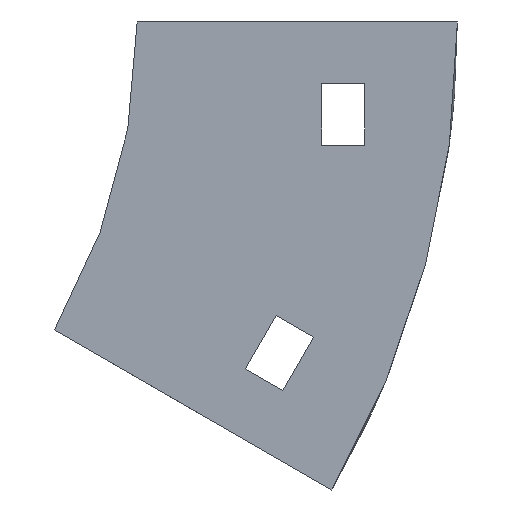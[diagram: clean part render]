
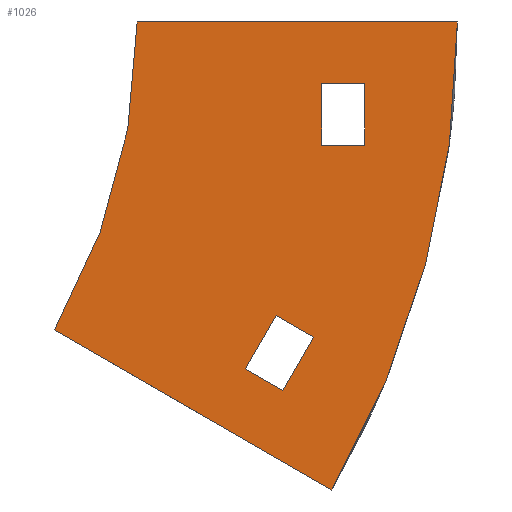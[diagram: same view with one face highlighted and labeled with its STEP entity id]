
A CAD part, left-side view. The second image highlights one B-rep face of the part: STEP entity #1026.
In plain terms, the highlighted planar face has unit normal (-1, 0, 0).
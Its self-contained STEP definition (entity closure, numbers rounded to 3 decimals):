
#2 = VERTEX_POINT ( 'NONE', #1080 ) ;
#5 = DIRECTION ( 'NONE',  ( 0., 1., 0. ) ) ;
#6 = EDGE_CURVE ( 'NONE', #1120, #881, #559, .T. ) ;
#23 = FACE_OUTER_BOUND ( 'NONE', #189, .T. ) ;
#24 = EDGE_CURVE ( 'NONE', #720, #60, #447, .T. ) ;
#29 = VECTOR ( 'NONE', #805, 1000. ) ;
#38 = CARTESIAN_POINT ( 'NONE',  ( -102., 0., 0. ) ) ;
#60 = VERTEX_POINT ( 'NONE', #263 ) ;
#79 = CARTESIAN_POINT ( 'NONE',  ( -102., -30., -10. ) ) ;
#106 = DIRECTION ( 'NONE',  ( 0., 0., -1. ) ) ;
#111 = CARTESIAN_POINT ( 'NONE',  ( -102., 13.397, -50. ) ) ;
#126 = CARTESIAN_POINT ( 'NONE',  ( -102., -17.583, -56.34 ) ) ;
#130 = DIRECTION ( 'NONE',  ( 0., -0.866, -0.5 ) ) ;
#144 = VERTEX_POINT ( 'NONE', #111 ) ;
#153 = VECTOR ( 'NONE', #717, 1000. ) ;
#173 = DIRECTION ( 'NONE',  ( 0., 0., -1. ) ) ;
#184 = ORIENTED_EDGE ( 'NONE', *, *, #262, .F. ) ;
#189 = EDGE_LOOP ( 'NONE', ( #370, #781, #838, #258 ) ) ;
#191 = CARTESIAN_POINT ( 'NONE',  ( -102., 100., 0. ) ) ;
#198 = AXIS2_PLACEMENT_3D ( 'NONE', #632, #1062, #173 ) ;
#223 = CARTESIAN_POINT ( 'NONE',  ( -102., -30., -10. ) ) ;
#235 = VERTEX_POINT ( 'NONE', #1073 ) ;
#258 = ORIENTED_EDGE ( 'NONE', *, *, #342, .F. ) ;
#262 = EDGE_CURVE ( 'NONE', #916, #235, #420, .T. ) ;
#263 = CARTESIAN_POINT ( 'NONE',  ( -102., -37., -10. ) ) ;
#271 = DIRECTION ( 'NONE',  ( 0., 0., -1. ) ) ;
#279 = ORIENTED_EDGE ( 'NONE', *, *, #659, .T. ) ;
#285 = CARTESIAN_POINT ( 'NONE',  ( -102., -30., -20. ) ) ;
#301 = DIRECTION ( 'NONE',  ( 0., 0., -1. ) ) ;
#307 = LINE ( 'NONE', #753, #554 ) ;
#328 = ORIENTED_EDGE ( 'NONE', *, *, #492, .F. ) ;
#336 = CARTESIAN_POINT ( 'NONE',  ( -102., 13.397, -50. ) ) ;
#342 = EDGE_CURVE ( 'NONE', #972, #1120, #893, .T. ) ;
#353 = EDGE_CURVE ( 'NONE', #689, #1015, #476, .T. ) ;
#367 = CARTESIAN_POINT ( 'NONE',  ( -102., -52., 0. ) ) ;
#369 = ORIENTED_EDGE ( 'NONE', *, *, #1112, .F. ) ;
#370 = ORIENTED_EDGE ( 'NONE', *, *, #545, .F. ) ;
#385 = VECTOR ( 'NONE', #301, 1000. ) ;
#394 = DIRECTION ( 'NONE',  ( 0., 0.866, 0.5 ) ) ;
#398 = CARTESIAN_POINT ( 'NONE',  ( -102., -30., -20. ) ) ;
#418 = EDGE_CURVE ( 'NONE', #881, #144, #769, .T. ) ;
#420 = LINE ( 'NONE', #427, #487 ) ;
#423 = CARTESIAN_POINT ( 'NONE',  ( -102., -52., 0. ) ) ;
#427 = CARTESIAN_POINT ( 'NONE',  ( -102., -23.645, -59.84 ) ) ;
#431 = ORIENTED_EDGE ( 'NONE', *, *, #661, .F. ) ;
#434 = DIRECTION ( 'NONE',  ( 0., -1., 0. ) ) ;
#446 = CARTESIAN_POINT ( 'NONE',  ( -102., -23.645, -59.84 ) ) ;
#447 = LINE ( 'NONE', #877, #724 ) ;
#476 = LINE ( 'NONE', #285, #857 ) ;
#487 = VECTOR ( 'NONE', #792, 1000. ) ;
#488 = DIRECTION ( 'NONE',  ( 0., 0., 1. ) ) ;
#492 = EDGE_CURVE ( 'NONE', #235, #882, #1048, .T. ) ;
#494 = EDGE_CURVE ( 'NONE', #60, #689, #749, .T. ) ;
#509 = ORIENTED_EDGE ( 'NONE', *, *, #353, .T. ) ;
#545 = EDGE_CURVE ( 'NONE', #144, #972, #719, .T. ) ;
#554 = VECTOR ( 'NONE', #941, 1000. ) ;
#555 = VECTOR ( 'NONE', #488, 1000. ) ;
#559 = CIRCLE ( 'NONE', #198, 152. ) ;
#597 = LINE ( 'NONE', #223, #555 ) ;
#632 = CARTESIAN_POINT ( 'NONE',  ( -102., 100., 0. ) ) ;
#654 = PLANE ( 'NONE',  #1124 ) ;
#659 = EDGE_CURVE ( 'NONE', #1015, #720, #597, .T. ) ;
#661 = EDGE_CURVE ( 'NONE', #2, #916, #918, .T. ) ;
#689 = VERTEX_POINT ( 'NONE', #752 ) ;
#701 = VECTOR ( 'NONE', #394, 1000. ) ;
#716 = DIRECTION ( 'NONE',  ( -1., 0., 0. ) ) ;
#717 = DIRECTION ( 'NONE',  ( 0., 0.866, 0.5 ) ) ;
#719 = CIRCLE ( 'NONE', #959, 100. ) ;
#720 = VERTEX_POINT ( 'NONE', #79 ) ;
#724 = VECTOR ( 'NONE', #434, 1000. ) ;
#733 = FACE_BOUND ( 'NONE', #1032, .T. ) ;
#744 = FACE_BOUND ( 'NONE', #1014, .T. ) ;
#749 = LINE ( 'NONE', #1104, #385 ) ;
#752 = CARTESIAN_POINT ( 'NONE',  ( -102., -37., -20. ) ) ;
#753 = CARTESIAN_POINT ( 'NONE',  ( -102., -17.583, -56.34 ) ) ;
#769 = LINE ( 'NONE', #336, #153 ) ;
#774 = CARTESIAN_POINT ( 'NONE',  ( -102., -31.636, -76. ) ) ;
#781 = ORIENTED_EDGE ( 'NONE', *, *, #418, .F. ) ;
#792 = DIRECTION ( 'NONE',  ( 0., -0.5, 0.866 ) ) ;
#805 = DIRECTION ( 'NONE',  ( 0., -1., 0. ) ) ;
#838 = ORIENTED_EDGE ( 'NONE', *, *, #6, .F. ) ;
#857 = VECTOR ( 'NONE', #5, 1000. ) ;
#877 = CARTESIAN_POINT ( 'NONE',  ( -102., -30., -10. ) ) ;
#881 = VERTEX_POINT ( 'NONE', #774 ) ;
#882 = VERTEX_POINT ( 'NONE', #1136 ) ;
#893 = LINE ( 'NONE', #367, #29 ) ;
#916 = VERTEX_POINT ( 'NONE', #446 ) ;
#918 = LINE ( 'NONE', #126, #1145 ) ;
#932 = ORIENTED_EDGE ( 'NONE', *, *, #494, .T. ) ;
#941 = DIRECTION ( 'NONE',  ( 0., 0.5, -0.866 ) ) ;
#950 = CARTESIAN_POINT ( 'NONE',  ( -102., -22.583, -47.679 ) ) ;
#959 = AXIS2_PLACEMENT_3D ( 'NONE', #1076, #716, #271 ) ;
#972 = VERTEX_POINT ( 'NONE', #38 ) ;
#1014 = EDGE_LOOP ( 'NONE', ( #279, #1090, #932, #509 ) ) ;
#1015 = VERTEX_POINT ( 'NONE', #398 ) ;
#1017 = DIRECTION ( 'NONE',  ( 1., 0., 0. ) ) ;
#1026 = ADVANCED_FACE ( 'NONE', ( #23, #744, #733 ), #654, .F. ) ;
#1032 = EDGE_LOOP ( 'NONE', ( #431, #369, #328, #184 ) ) ;
#1048 = LINE ( 'NONE', #950, #701 ) ;
#1062 = DIRECTION ( 'NONE',  ( 1., 0., 0. ) ) ;
#1073 = CARTESIAN_POINT ( 'NONE',  ( -102., -28.645, -51.179 ) ) ;
#1076 = CARTESIAN_POINT ( 'NONE',  ( -102., 100., 0. ) ) ;
#1080 = CARTESIAN_POINT ( 'NONE',  ( -102., -17.583, -56.34 ) ) ;
#1090 = ORIENTED_EDGE ( 'NONE', *, *, #24, .T. ) ;
#1104 = CARTESIAN_POINT ( 'NONE',  ( -102., -37., -10. ) ) ;
#1112 = EDGE_CURVE ( 'NONE', #882, #2, #307, .T. ) ;
#1120 = VERTEX_POINT ( 'NONE', #423 ) ;
#1124 = AXIS2_PLACEMENT_3D ( 'NONE', #191, #1017, #106 ) ;
#1136 = CARTESIAN_POINT ( 'NONE',  ( -102., -22.583, -47.679 ) ) ;
#1145 = VECTOR ( 'NONE', #130, 1000. ) ;
